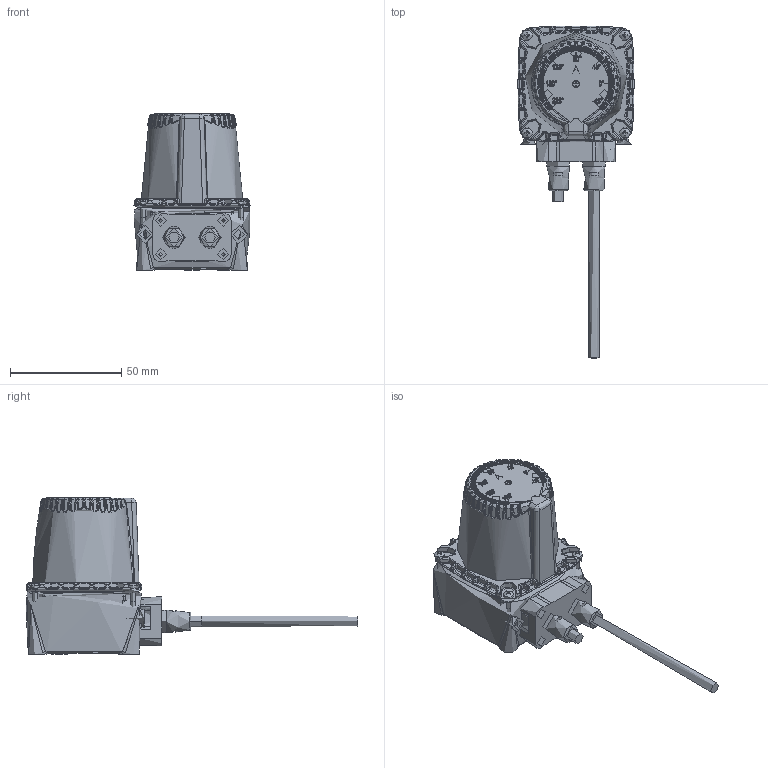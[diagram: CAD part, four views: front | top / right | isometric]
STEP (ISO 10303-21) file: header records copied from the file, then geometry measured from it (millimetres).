
FILE_DESCRIPTION(/* description */ (''),/* implementation_level */ '2;1');
FILE_NAME(/* name */ 'YB27-25CS.stp',/* time_stamp */ '2024-08-07T17:05:41+08:00',/* author */ (''),/* organization */ (''),/* preprocessor_version */ 'ST-DEVELOPER v14',/* originating_system */ 'SIEMENS PLM Software NX 8.0',/* authorisation */ '');
FILE_SCHEMA (('AUTOMOTIVE_DESIGN { 1 0 10303 214 3 1 1 1 }'));
Products named in the file (1): YB27-25CS
Bounding box: 52.04 x 148.87 x 70.1 mm (x, y, z)
Volume: 42722.8 mm3; surface area: 42661.5 mm2
Topology: 11 solids, 13 shells, 5215 faces, 13443 edges, 8596 vertices
Faces by surface type: plane 3043, bspline 1353, cylinder 433, cone 183, torus 112, sphere 64, extrusion 27
Full cylindrical faces by diameter (mm): 1.35 x6, 1.7 x2, 1.8 x6, 2 x4, 2.06 x1, 2.38 x4, 2.5 x4, 3 x1, 3.1 x3, 3.2 x1, 3.4 x2, 3.5 x2, 4.2 x4, 4.5 x4, 4.8 x6, 5 x5, 5.1 x4, 7.9 x2, 8 x1, 10 x2
Entity records: 266252 total; most frequent: CARTESIAN_POINT 149772, ORIENTED_EDGE 26414, DIRECTION 17339, EDGE_CURVE 13207, VERTEX_POINT 8549, AXIS2_PLACEMENT_3D 5815, EDGE_LOOP 5778, VECTOR 5709
